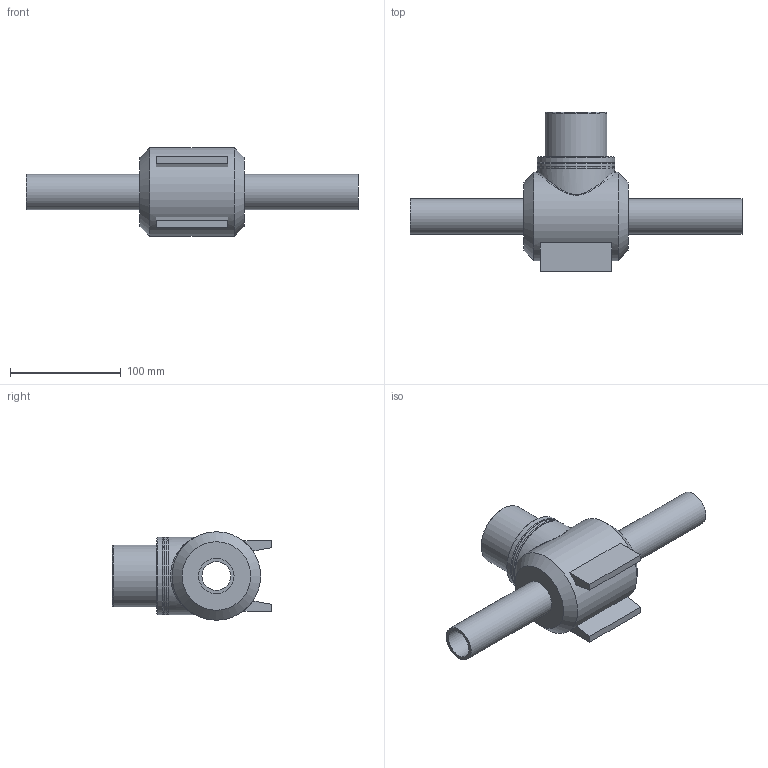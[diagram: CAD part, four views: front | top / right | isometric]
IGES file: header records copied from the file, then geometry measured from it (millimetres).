
Global section: file name: 436207032.ipt; native system: Autodesk Inventor 2015; preprocessor: unknown; author: Кирилл,,11,0; organization: 20170828.110610; date: 20171106.093329; units: millimetre
Bounding box: 300 x 144 x 80 mm (x, y, z)
Volume: 616555.4 mm3; surface area: 94963.8 mm2
Topology: 1 solids, 1 shells, 33 faces, 81 edges, 54 vertices
Faces by surface type: plane 16, cylinder 7, cone 4, revolution 4, bspline 2
Full cylindrical faces by diameter (mm): 32 x2, 56 x1, 70 x3, 80 x1
